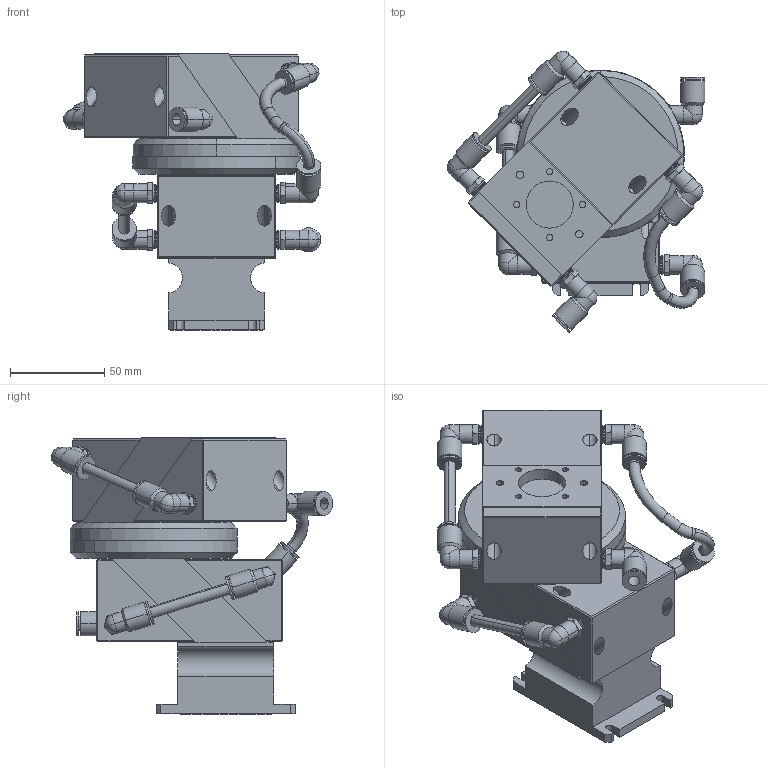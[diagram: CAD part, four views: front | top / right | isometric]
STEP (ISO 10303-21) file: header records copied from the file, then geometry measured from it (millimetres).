
FILE_DESCRIPTION (( 'STEP AP214' ), '1' );
FILE_NAME ('BQE-25-9.4-CJB.STEP', '2015-10-08T14:42:14', ( '' ), ( '' ), 'SwSTEP 2.0', 'SolidWorks 2015', '' );
FILE_SCHEMA (( 'AUTOMOTIVE_DESIGN' ));
Length unit declared in the file: inch
Products named in the file (1): BQE-25-9.4-CJB
Bounding box: 136.52 x 149.12 x 146.24 mm (x, y, z)
Volume: 755569.9 mm3; surface area: 97131.4 mm2
Topology: 1 solids, 1 shells, 716 faces, 1620 edges, 988 vertices
Faces by surface type: plane 308, cylinder 226, cone 100, torus 66, sphere 16
Entity records: 20344 total; most frequent: CARTESIAN_POINT 4149, DIRECTION 3554, ORIENTED_EDGE 3208, EDGE_CURVE 1604, AXIS2_PLACEMENT_3D 1385, VERTEX_POINT 988, EDGE_LOOP 820, LINE 784
